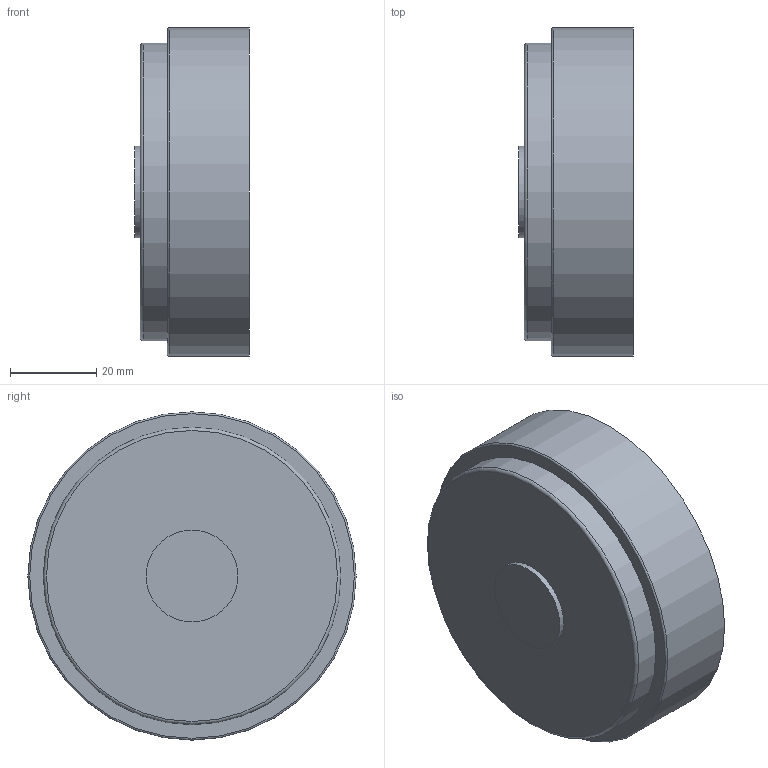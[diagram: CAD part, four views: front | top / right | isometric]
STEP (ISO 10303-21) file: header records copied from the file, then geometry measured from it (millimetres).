
FILE_DESCRIPTION(/* description */ ('VIC STRENGTHIN CAP No E496 w/Tap 1/2 inch BSPT (Concentric)','CAx-IF Rec.Pracs.---Representation and Presentation of Product Manufacturing Information (PMI)---4.0---2014-10-13'),/* implementation_level */ '2;1');
FILE_NAME(/* name */ 'C:\Users\Vjadhav\AppData\Roaming\Autodesk\ApplicationPlugins\Back Up\Victaulic_SS-StrengThin 100_Cap With Tap_No E496 (ST1)\Victaulic_SS-StrengThin 100_Cap With Tap_No E496 (ST1)_02.5 (76.1)x0.5 (65x15).stp',/* time_stamp */ '2020-07-07T18:46:44+05:00',/* author */ ('jheald'),/* organization */ ('Victaulic'),/* preprocessor_version */ 'ST-DEVELOPER v17.2',/* originating_system */ 'Autodesk Inventor 2019',/* authorisation */ '');
FILE_SCHEMA (('AP242_MANAGED_MODEL_BASED_3D_ENGINEERING_MIM_LF { 1 0 10303 442 1 1 4 }'));
Length unit declared in the file: inch
Products named in the file (1): E496-02.5 (76.1)x0.5
Bounding box: 26.67 x 76.2 x 76.2 mm (x, y, z)
Volume: 78146.7 mm3; surface area: 17133.2 mm2
Topology: 1 solids, 1 shells, 11 faces, 26 edges, 20 vertices
Faces by surface type: plane 5, cylinder 4, torus 2
Full cylindrical faces by diameter (mm): 21.336 x1, 62.713 x1, 69.088 x1, 76.2 x1
Entity records: 489 total; most frequent: DIRECTION 98, CARTESIAN_POINT 75, ORIENTED_EDGE 52, AXIS2_PLACEMENT_3D 47, EDGE_CURVE 26, CIRCLE 22, VERTEX_POINT 20, EDGE_LOOP 14
